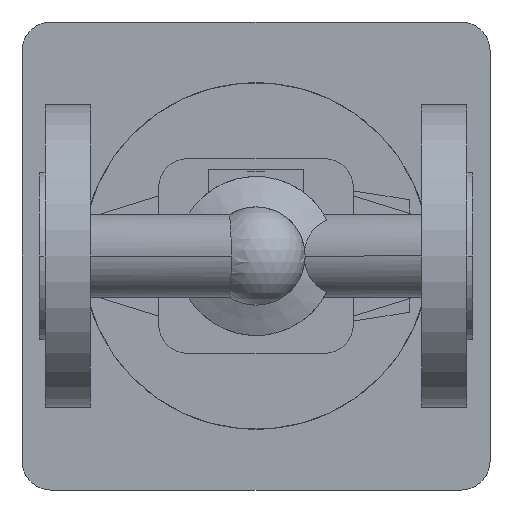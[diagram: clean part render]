
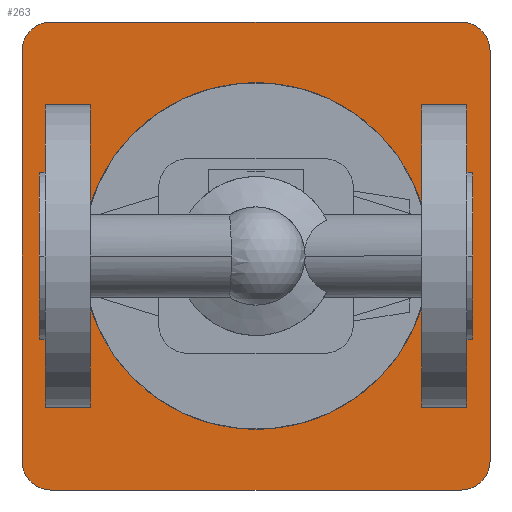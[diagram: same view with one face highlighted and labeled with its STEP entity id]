
A CAD part, front view. The second image highlights one B-rep face of the part: STEP entity #263.
In plain terms, the highlighted planar face has unit normal (0, -1, 0).
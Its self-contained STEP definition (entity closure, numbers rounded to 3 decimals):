
#263 = ADVANCED_FACE( '', ( #603, #604 ), #605, .F. );
#603 = FACE_OUTER_BOUND( '', #969, .T. );
#604 = FACE_BOUND( '', #970, .T. );
#605 = PLANE( '', #971 );
#969 = EDGE_LOOP( '', ( #2118, #2119, #2120, #2121, #2122, #2123, #2124, #2125 ) );
#970 = EDGE_LOOP( '', ( #2126, #2127 ) );
#971 = AXIS2_PLACEMENT_3D( '', #2128, #2129, #2130 );
#2118 = ORIENTED_EDGE( '', *, *, #2648, .F. );
#2119 = ORIENTED_EDGE( '', *, *, #2649, .F. );
#2120 = ORIENTED_EDGE( '', *, *, #2650, .F. );
#2121 = ORIENTED_EDGE( '', *, *, #2651, .F. );
#2122 = ORIENTED_EDGE( '', *, *, #2652, .F. );
#2123 = ORIENTED_EDGE( '', *, *, #2653, .F. );
#2124 = ORIENTED_EDGE( '', *, *, #2654, .F. );
#2125 = ORIENTED_EDGE( '', *, *, #2655, .F. );
#2126 = ORIENTED_EDGE( '', *, *, #2563, .F. );
#2127 = ORIENTED_EDGE( '', *, *, #2656, .F. );
#2128 = CARTESIAN_POINT( '', ( 75., 398., 0. ) );
#2129 = DIRECTION( '', ( 0., 1., 0. ) );
#2130 = DIRECTION( '', ( 0., 0., 1. ) );
#2563 = EDGE_CURVE( '', #3140, #3143, #3144, .T. );
#2648 = EDGE_CURVE( '', #3287, #3288, #3289, .T. );
#2649 = EDGE_CURVE( '', #3290, #3287, #3291, .T. );
#2650 = EDGE_CURVE( '', #3292, #3290, #3293, .T. );
#2651 = EDGE_CURVE( '', #3294, #3292, #3295, .T. );
#2652 = EDGE_CURVE( '', #3296, #3294, #3297, .T. );
#2653 = EDGE_CURVE( '', #3298, #3296, #3299, .T. );
#2654 = EDGE_CURVE( '', #3300, #3298, #3301, .T. );
#2655 = EDGE_CURVE( '', #3288, #3300, #3302, .T. );
#2656 = EDGE_CURVE( '', #3143, #3140, #3303, .T. );
#3140 = VERTEX_POINT( '', #4243 );
#3143 = VERTEX_POINT( '', #4247 );
#3144 = CIRCLE( '', #4248, 40. );
#3287 = VERTEX_POINT( '', #4446 );
#3288 = VERTEX_POINT( '', #4447 );
#3289 = CIRCLE( '', #4448, 10. );
#3290 = VERTEX_POINT( '', #4449 );
#3291 = LINE( '', #4450, #4451 );
#3292 = VERTEX_POINT( '', #4452 );
#3293 = CIRCLE( '', #4453, 10. );
#3294 = VERTEX_POINT( '', #4454 );
#3295 = LINE( '', #4455, #4456 );
#3296 = VERTEX_POINT( '', #4457 );
#3297 = CIRCLE( '', #4458, 10. );
#3298 = VERTEX_POINT( '', #4459 );
#3299 = LINE( '', #4460, #4461 );
#3300 = VERTEX_POINT( '', #4462 );
#3301 = CIRCLE( '', #4463, 10. );
#3302 = LINE( '', #4464, #4465 );
#3303 = CIRCLE( '', #4466, 40. );
#4243 = CARTESIAN_POINT( '', ( 35., 398., 0. ) );
#4247 = CARTESIAN_POINT( '', ( 115., 398., 0. ) );
#4248 = AXIS2_PLACEMENT_3D( '', #5024, #5025, #5026 );
#4446 = CARTESIAN_POINT( '', ( -6., 398., 71. ) );
#4447 = CARTESIAN_POINT( '', ( 4., 398., 81. ) );
#4448 = AXIS2_PLACEMENT_3D( '', #5169, #5170, #5171 );
#4449 = CARTESIAN_POINT( '', ( -6., 398., -71. ) );
#4450 = CARTESIAN_POINT( '', ( -6., 398., -71. ) );
#4451 = VECTOR( '', #5172, 1. );
#4452 = CARTESIAN_POINT( '', ( 4., 398., -81. ) );
#4453 = AXIS2_PLACEMENT_3D( '', #5173, #5174, #5175 );
#4454 = CARTESIAN_POINT( '', ( 146., 398., -81. ) );
#4455 = CARTESIAN_POINT( '', ( 146., 398., -81. ) );
#4456 = VECTOR( '', #5176, 1. );
#4457 = CARTESIAN_POINT( '', ( 156., 398., -71. ) );
#4458 = AXIS2_PLACEMENT_3D( '', #5177, #5178, #5179 );
#4459 = CARTESIAN_POINT( '', ( 156., 398., 71. ) );
#4460 = CARTESIAN_POINT( '', ( 156., 398., 71. ) );
#4461 = VECTOR( '', #5180, 1. );
#4462 = CARTESIAN_POINT( '', ( 146., 398., 81. ) );
#4463 = AXIS2_PLACEMENT_3D( '', #5181, #5182, #5183 );
#4464 = CARTESIAN_POINT( '', ( 4., 398., 81. ) );
#4465 = VECTOR( '', #5184, 1. );
#4466 = AXIS2_PLACEMENT_3D( '', #5185, #5186, #5187 );
#5024 = CARTESIAN_POINT( '', ( 75., 398., 0. ) );
#5025 = DIRECTION( '', ( 0., -1., 0. ) );
#5026 = DIRECTION( '', ( -1., 0., 0. ) );
#5169 = CARTESIAN_POINT( '', ( 4., 398., 71. ) );
#5170 = DIRECTION( '', ( 0., 1., 0. ) );
#5171 = DIRECTION( '', ( -1., 0., 0. ) );
#5172 = DIRECTION( '', ( 0., 0., 1. ) );
#5173 = CARTESIAN_POINT( '', ( 4., 398., -71. ) );
#5174 = DIRECTION( '', ( 0., 1., 0. ) );
#5175 = DIRECTION( '', ( 0., 0., -1. ) );
#5176 = DIRECTION( '', ( -1., 0., 0. ) );
#5177 = CARTESIAN_POINT( '', ( 146., 398., -71. ) );
#5178 = DIRECTION( '', ( 0., 1., 0. ) );
#5179 = DIRECTION( '', ( 1., 0., 0. ) );
#5180 = DIRECTION( '', ( 0., 0., -1. ) );
#5181 = CARTESIAN_POINT( '', ( 146., 398., 71. ) );
#5182 = DIRECTION( '', ( 0., 1., 0. ) );
#5183 = DIRECTION( '', ( 0., 0., 1. ) );
#5184 = DIRECTION( '', ( 1., 0., 0. ) );
#5185 = CARTESIAN_POINT( '', ( 75., 398., 0. ) );
#5186 = DIRECTION( '', ( 0., -1., 0. ) );
#5187 = DIRECTION( '', ( -1., 0., 0. ) );
